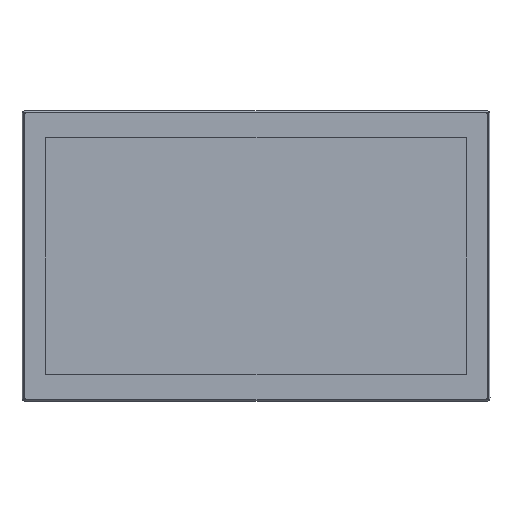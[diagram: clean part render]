
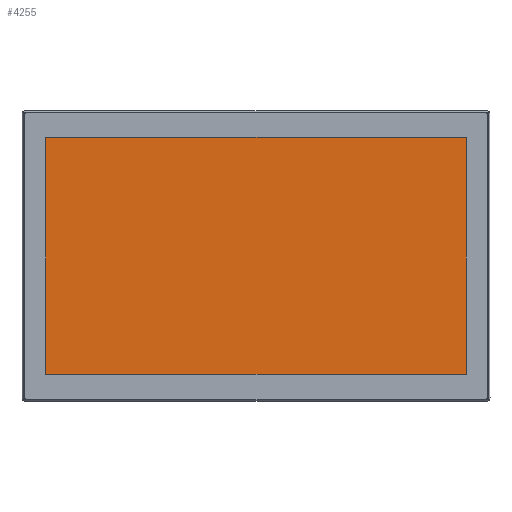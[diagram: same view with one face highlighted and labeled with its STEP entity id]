
A CAD part, top view. The second image highlights one B-rep face of the part: STEP entity #4255.
In plain terms, the highlighted planar face has unit normal (0, 0, 1).
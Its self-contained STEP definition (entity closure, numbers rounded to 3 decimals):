
#1773 = VECTOR ( 'NONE', #38074, 1000. ) ;
#3243 = DIRECTION ( 'NONE',  ( 0., -1., 0. ) ) ;
#3255 = CARTESIAN_POINT ( 'NONE',  ( 505.42, 300.155, 65.84 ) ) ;
#4255 = ADVANCED_FACE ( 'NONE', ( #56997 ), #68476, .T. ) ;
#7232 = EDGE_CURVE ( 'NONE', #39978, #41752, #67855, .T. ) ;
#13652 = CARTESIAN_POINT ( 'NONE',  ( 27.18, 30.445, 65.84 ) ) ;
#19209 = DIRECTION ( 'NONE',  ( 0., 0., 1. ) ) ;
#19250 = VECTOR ( 'NONE', #70730, 1000. ) ;
#22910 = ORIENTED_EDGE ( 'NONE', *, *, #41618, .T. ) ;
#32352 = CARTESIAN_POINT ( 'NONE',  ( 505.42, 30.445, 65.84 ) ) ;
#32673 = CARTESIAN_POINT ( 'NONE',  ( 27.18, 30.445, 65.84 ) ) ;
#35477 = DIRECTION ( 'NONE',  ( 1., 0., 0. ) ) ;
#38074 = DIRECTION ( 'NONE',  ( 1., 0., 0. ) ) ;
#39095 = CARTESIAN_POINT ( 'NONE',  ( 27.18, 300.155, 65.84 ) ) ;
#39280 = ORIENTED_EDGE ( 'NONE', *, *, #72166, .T. ) ;
#39978 = VERTEX_POINT ( 'NONE', #41100 ) ;
#41100 = CARTESIAN_POINT ( 'NONE',  ( 27.18, 30.445, 65.84 ) ) ;
#41618 = EDGE_CURVE ( 'NONE', #94932, #92157, #82323, .T. ) ;
#41752 = VERTEX_POINT ( 'NONE', #32352 ) ;
#42588 = EDGE_LOOP ( 'NONE', ( #53273, #39280, #22910, #83663 ) ) ;
#53273 = ORIENTED_EDGE ( 'NONE', *, *, #7232, .T. ) ;
#54393 = CARTESIAN_POINT ( 'NONE',  ( 27.18, 300.155, 65.84 ) ) ;
#56997 = FACE_OUTER_BOUND ( 'NONE', #42588, .T. ) ;
#61786 = VECTOR ( 'NONE', #3243, 1000. ) ;
#63715 = LINE ( 'NONE', #94367, #19250 ) ;
#67855 = LINE ( 'NONE', #13652, #1773 ) ;
#68476 = PLANE ( 'NONE',  #75380 ) ;
#70730 = DIRECTION ( 'NONE',  ( 0., 1., 0. ) ) ;
#72166 = EDGE_CURVE ( 'NONE', #41752, #94932, #63715, .T. ) ;
#74461 = LINE ( 'NONE', #32673, #61786 ) ;
#74971 = EDGE_CURVE ( 'NONE', #92157, #39978, #74461, .T. ) ;
#75380 = AXIS2_PLACEMENT_3D ( 'NONE', #101328, #19209, #35477 ) ;
#82323 = LINE ( 'NONE', #39095, #101319 ) ;
#83663 = ORIENTED_EDGE ( 'NONE', *, *, #74971, .T. ) ;
#92157 = VERTEX_POINT ( 'NONE', #54393 ) ;
#94367 = CARTESIAN_POINT ( 'NONE',  ( 505.42, 30.445, 65.84 ) ) ;
#94932 = VERTEX_POINT ( 'NONE', #3255 ) ;
#101319 = VECTOR ( 'NONE', #102509, 1000. ) ;
#101328 = CARTESIAN_POINT ( 'NONE',  ( 4., 4., 65.84 ) ) ;
#102509 = DIRECTION ( 'NONE',  ( -1., 0., 0. ) ) ;
